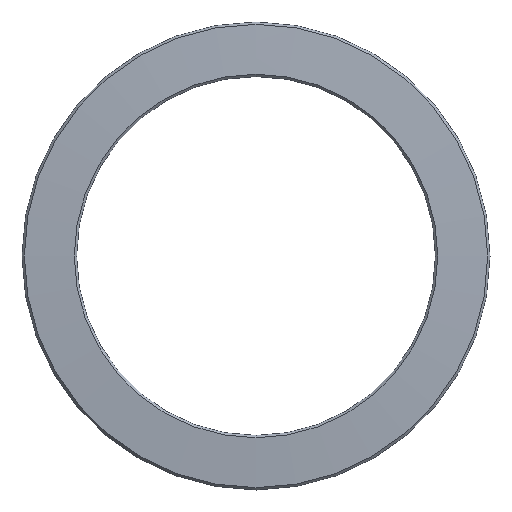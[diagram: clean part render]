
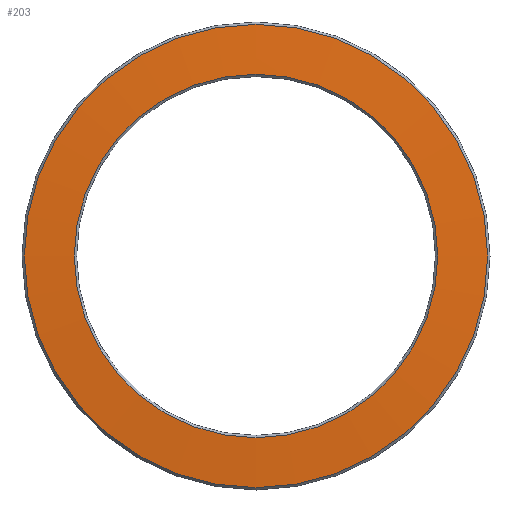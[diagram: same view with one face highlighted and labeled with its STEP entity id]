
A CAD part, left-side view. The second image highlights one B-rep face of the part: STEP entity #203.
In plain terms, the highlighted spherical face has radius 203.1 mm.
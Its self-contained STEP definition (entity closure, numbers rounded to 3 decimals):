
#136 = CONICAL_SURFACE('',#137,15.,0.75);
#137 = AXIS2_PLACEMENT_3D('',#138,#139,#140);
#138 = CARTESIAN_POINT('',(-70.995,-4.,213.));
#139 = DIRECTION('',(1.,0.,0.));
#140 = DIRECTION('',(-0.,-0.,1.));
#154 = VERTEX_POINT('',#155);
#155 = CARTESIAN_POINT('',(-71.156,-4.,227.85));
#176 = EDGE_CURVE('',#154,#154,#177,.T.);
#177 = SURFACE_CURVE('',#178,(#183,#190),.PCURVE_S1.);
#178 = CIRCLE('',#179,14.85);
#179 = AXIS2_PLACEMENT_3D('',#180,#181,#182);
#180 = CARTESIAN_POINT('',(-71.156,-4.,213.));
#181 = DIRECTION('',(1.,-0.,0.));
#182 = DIRECTION('',(-0.,-0.,1.));
#183 = PCURVE('',#136,#184);
#184 = DEFINITIONAL_REPRESENTATION('',(#185),#189);
#185 = LINE('',#186,#187);
#186 = CARTESIAN_POINT('',(0.,-0.161));
#187 = VECTOR('',#188,1.);
#188 = DIRECTION('',(1.,-0.));
#189 = ( GEOMETRIC_REPRESENTATION_CONTEXT(2) 
PARAMETRIC_REPRESENTATION_CONTEXT() REPRESENTATION_CONTEXT('2D SPACE',''
  ) );
#190 = PCURVE('',#191,#196);
#191 = SPHERICAL_SURFACE('',#192,203.1);
#192 = AXIS2_PLACEMENT_3D('',#193,#194,#195);
#193 = CARTESIAN_POINT('',(131.4,-4.,213.));
#194 = DIRECTION('',(-1.,-0.,-0.));
#195 = DIRECTION('',(-0.,-0.,1.));
#196 = DEFINITIONAL_REPRESENTATION('',(#197),#201);
#197 = LINE('',#198,#199);
#198 = CARTESIAN_POINT('',(-0.,1.498));
#199 = VECTOR('',#200,1.);
#200 = DIRECTION('',(-1.,0.));
#201 = ( GEOMETRIC_REPRESENTATION_CONTEXT(2) 
PARAMETRIC_REPRESENTATION_CONTEXT() REPRESENTATION_CONTEXT('2D SPACE',''
  ) );
#203 = ADVANCED_FACE('',(#204),#191,.T.);
#204 = FACE_BOUND('',#205,.F.);
#205 = EDGE_LOOP('',(#206,#207,#231,#258));
#206 = ORIENTED_EDGE('',*,*,#176,.T.);
#207 = ORIENTED_EDGE('',*,*,#208,.T.);
#208 = EDGE_CURVE('',#154,#209,#211,.T.);
#209 = VERTEX_POINT('',#210);
#210 = CARTESIAN_POINT('',(-71.366,-4.,224.65));
#211 = SEAM_CURVE('',#212,(#217,#224),.PCURVE_S1.);
#212 = CIRCLE('',#213,203.1);
#213 = AXIS2_PLACEMENT_3D('',#214,#215,#216);
#214 = CARTESIAN_POINT('',(131.4,-4.,213.));
#215 = DIRECTION('',(0.,-1.,0.));
#216 = DIRECTION('',(-0.997,-0.,0.073));
#217 = PCURVE('',#191,#218);
#218 = DEFINITIONAL_REPRESENTATION('',(#219),#223);
#219 = LINE('',#220,#221);
#220 = CARTESIAN_POINT('',(-0.,1.498));
#221 = VECTOR('',#222,1.);
#222 = DIRECTION('',(-0.,1.));
#223 = ( GEOMETRIC_REPRESENTATION_CONTEXT(2) 
PARAMETRIC_REPRESENTATION_CONTEXT() REPRESENTATION_CONTEXT('2D SPACE',''
  ) );
#224 = PCURVE('',#191,#225);
#225 = DEFINITIONAL_REPRESENTATION('',(#226),#230);
#226 = LINE('',#227,#228);
#227 = CARTESIAN_POINT('',(-6.283,1.498));
#228 = VECTOR('',#229,1.);
#229 = DIRECTION('',(-0.,1.));
#230 = ( GEOMETRIC_REPRESENTATION_CONTEXT(2) 
PARAMETRIC_REPRESENTATION_CONTEXT() REPRESENTATION_CONTEXT('2D SPACE',''
  ) );
#231 = ORIENTED_EDGE('',*,*,#232,.F.);
#232 = EDGE_CURVE('',#209,#209,#233,.T.);
#233 = SURFACE_CURVE('',#234,(#239,#246),.PCURVE_S1.);
#234 = CIRCLE('',#235,11.65);
#235 = AXIS2_PLACEMENT_3D('',#236,#237,#238);
#236 = CARTESIAN_POINT('',(-71.366,-4.,213.));
#237 = DIRECTION('',(1.,-0.,0.));
#238 = DIRECTION('',(-0.,-0.,1.));
#239 = PCURVE('',#191,#240);
#240 = DEFINITIONAL_REPRESENTATION('',(#241),#245);
#241 = LINE('',#242,#243);
#242 = CARTESIAN_POINT('',(-0.,1.513));
#243 = VECTOR('',#244,1.);
#244 = DIRECTION('',(-1.,0.));
#245 = ( GEOMETRIC_REPRESENTATION_CONTEXT(2) 
PARAMETRIC_REPRESENTATION_CONTEXT() REPRESENTATION_CONTEXT('2D SPACE',''
  ) );
#246 = PCURVE('',#247,#252);
#247 = CONICAL_SURFACE('',#248,11.65,0.815);
#248 = AXIS2_PLACEMENT_3D('',#249,#250,#251);
#249 = CARTESIAN_POINT('',(-71.366,-4.,213.));
#250 = DIRECTION('',(-1.,0.,0.));
#251 = DIRECTION('',(-0.,-0.,1.));
#252 = DEFINITIONAL_REPRESENTATION('',(#253),#257);
#253 = LINE('',#254,#255);
#254 = CARTESIAN_POINT('',(-0.,-0.));
#255 = VECTOR('',#256,1.);
#256 = DIRECTION('',(-1.,-0.));
#257 = ( GEOMETRIC_REPRESENTATION_CONTEXT(2) 
PARAMETRIC_REPRESENTATION_CONTEXT() REPRESENTATION_CONTEXT('2D SPACE',''
  ) );
#258 = ORIENTED_EDGE('',*,*,#208,.F.);
